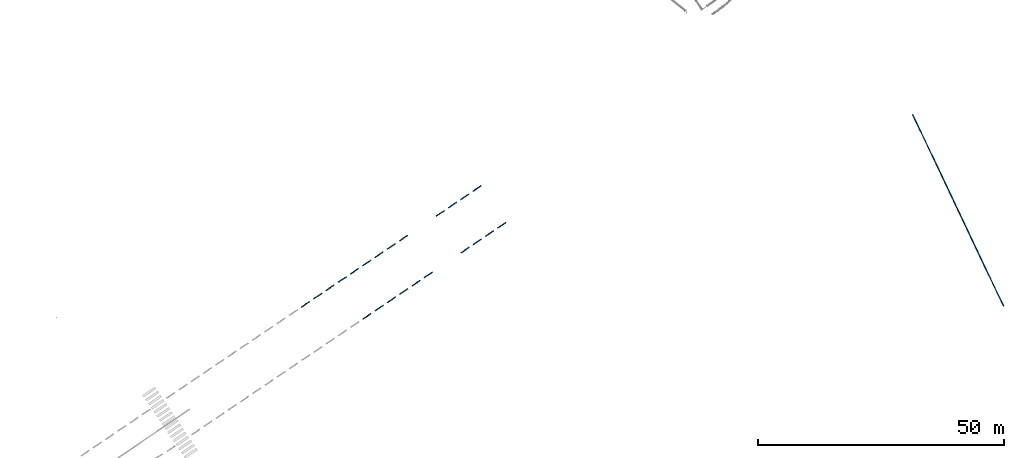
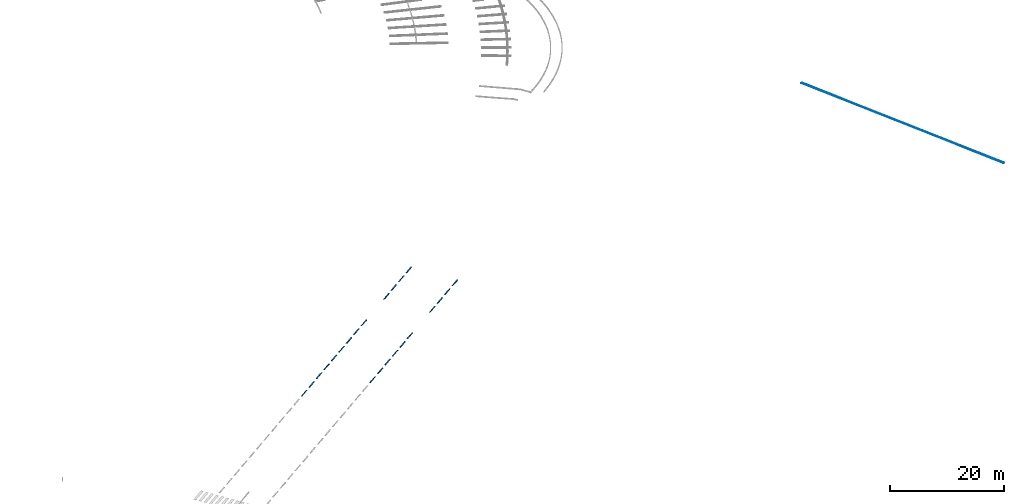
# One storey, part 89 of 157: 24 walls.
"""IFC2X3 building model written with IfcOpenShell, lengths in millimetres."""

from ifc_helpers import new_model, entity, si_unit, converted_unit, derived_unit, direction, frame, frame_2d, origin, origin_2d_with_axis, place, context, subcontext, project, spatial, rectangle, extrude, material, type_object, element, save


model = new_model("IFC2X3")

# Units and contexts
model_context = context("Model", 3, precision=0.01, world=origin(), true_north=direction((6.123031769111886e-17, 1.0)))
body_context = subcontext(model_context, "Body", "Model", "MODEL_VIEW")
ifc_project = project(units=[si_unit("LENGTHUNIT", "METRE", prefix="MILLI"), si_unit("AREAUNIT", "SQUARE_METRE"), si_unit("VOLUMEUNIT", "CUBIC_METRE"), converted_unit("PLANEANGLEUNIT", "DEGREE", entity("IfcRatioMeasure", 0.017453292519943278), si_unit("PLANEANGLEUNIT", "RADIAN"), dimensions=[0, 0, 0, 0, 0, 0, 0]), si_unit("MASSUNIT", "GRAM", prefix="KILO"), derived_unit("MASSDENSITYUNIT", [(si_unit("MASSUNIT", "GRAM", prefix="KILO"), 1), (si_unit("LENGTHUNIT", "METRE"), -3)]), derived_unit("MOMENTOFINERTIAUNIT", [(si_unit("LENGTHUNIT", "METRE"), 4)]), si_unit("TIMEUNIT", "SECOND"), si_unit("FREQUENCYUNIT", "HERTZ"), si_unit("THERMODYNAMICTEMPERATUREUNIT", "DEGREE_CELSIUS"), derived_unit("THERMALTRANSMITTANCEUNIT", [(si_unit("MASSUNIT", "GRAM", prefix="KILO"), 1), (si_unit("THERMODYNAMICTEMPERATUREUNIT", "KELVIN"), -1), (si_unit("TIMEUNIT", "SECOND"), -3)]), derived_unit("THERMALCONDUCTANCEUNIT", [(si_unit("MASSUNIT", "GRAM", prefix="KILO"), 1), (si_unit("LENGTHUNIT", "METRE"), 1), (si_unit("THERMODYNAMICTEMPERATUREUNIT", "KELVIN"), -1), (si_unit("TIMEUNIT", "SECOND"), -3)]), derived_unit("VOLUMETRICFLOWRATEUNIT", [(si_unit("LENGTHUNIT", "METRE"), 3), (si_unit("TIMEUNIT", "SECOND"), -1)]), derived_unit("MASSFLOWRATEUNIT", [(si_unit("MASSUNIT", "GRAM", prefix="KILO"), 1), (si_unit("TIMEUNIT", "SECOND"), -1)]), derived_unit("ROTATIONALFREQUENCYUNIT", [(si_unit("TIMEUNIT", "SECOND"), -1)]), si_unit("ELECTRICCURRENTUNIT", "AMPERE"), si_unit("ELECTRICVOLTAGEUNIT", "VOLT"), si_unit("POWERUNIT", "WATT"), converted_unit("FORCEUNIT", "KIP", entity("IfcRatioMeasure", 2.088543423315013e-05), si_unit("FORCEUNIT", "NEWTON"), dimensions=[1, 1, -2, 0, 0, 0, 0]), si_unit("ILLUMINANCEUNIT", "LUX"), si_unit("LUMINOUSFLUXUNIT", "LUMEN"), si_unit("LUMINOUSINTENSITYUNIT", "CANDELA"), derived_unit("USERDEFINED", [(si_unit("MASSUNIT", "GRAM", prefix="KILO"), -1), (si_unit("LENGTHUNIT", "METRE"), -2), (si_unit("TIMEUNIT", "SECOND"), 3), (si_unit("LUMINOUSFLUXUNIT", "LUMEN"), 1)]), derived_unit("USERDEFINED", [(si_unit("MASSUNIT", "GRAM", prefix="KILO"), 1), (si_unit("LENGTHUNIT", "METRE"), 3), (si_unit("TIMEUNIT", "SECOND"), -3), (si_unit("ELECTRICCURRENTUNIT", "AMPERE"), -2)]), derived_unit("USERDEFINED", [(si_unit("LENGTHUNIT", "METRE"), 2), (si_unit("TIMEUNIT", "SECOND"), -2)]), derived_unit("SOUNDPOWERUNIT", [(si_unit("MASSUNIT", "GRAM", prefix="KILO"), 1), (si_unit("LENGTHUNIT", "METRE"), 2), (si_unit("TIMEUNIT", "SECOND"), -3)]), derived_unit("SOUNDPRESSUREUNIT", [(si_unit("MASSUNIT", "GRAM", prefix="KILO"), 1), (si_unit("LENGTHUNIT", "METRE"), -1), (si_unit("TIMEUNIT", "SECOND"), -2)]), derived_unit("LINEARVELOCITYUNIT", [(si_unit("LENGTHUNIT", "METRE"), 1), (si_unit("TIMEUNIT", "SECOND"), -1)]), si_unit("PRESSUREUNIT", "PASCAL"), derived_unit("USERDEFINED", [(si_unit("LENGTHUNIT", "METRE"), -2), (si_unit("MASSUNIT", "GRAM", prefix="KILO"), 1), (si_unit("TIMEUNIT", "SECOND"), -2)]), derived_unit("LINEARFORCEUNIT", [(si_unit("MASSUNIT", "GRAM", prefix="KILO"), 1), (si_unit("LENGTHUNIT", "METRE"), 1), (si_unit("TIMEUNIT", "SECOND"), -2), (si_unit("LENGTHUNIT", "METRE"), -1)]), derived_unit("PLANARFORCEUNIT", [(si_unit("MASSUNIT", "GRAM", prefix="KILO"), 1), (si_unit("LENGTHUNIT", "METRE"), 1), (si_unit("TIMEUNIT", "SECOND"), -2), (si_unit("LENGTHUNIT", "METRE"), -2)]), derived_unit("SPECIFICHEATCAPACITYUNIT", [(si_unit("LENGTHUNIT", "METRE"), 2), (si_unit("TIMEUNIT", "SECOND"), -2), (si_unit("THERMODYNAMICTEMPERATUREUNIT", "KELVIN"), -1)]), derived_unit("VAPORPERMEABILITYUNIT", [(si_unit("TIMEUNIT", "SECOND"), 1), (si_unit("LENGTHUNIT", "METRE"), -1)]), derived_unit("DYNAMICVISCOSITYUNIT", [(si_unit("MASSUNIT", "GRAM", prefix="KILO"), 1), (si_unit("LENGTHUNIT", "METRE"), -1), (si_unit("TIMEUNIT", "SECOND"), -1)]), derived_unit("THERMALEXPANSIONCOEFFICIENTUNIT", [(si_unit("THERMODYNAMICTEMPERATUREUNIT", "KELVIN"), -1)])], contexts=[model_context])

# Site, building, storey
site_placement = place(None, frame((0.0, 0.0, 0.0), z_axis=(0.0, 0.0, 1.0), x_axis=(0.8191520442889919, 0.5735764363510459, 0.0)))
site = spatial("IfcSite", under=ifc_project, at=site_placement, Name="Default", CompositionType="ELEMENT")
building_placement = place(site_placement, origin())
building = spatial("IfcBuilding", under=site, at=building_placement, CompositionType="ELEMENT")
storey_placement = place(building_placement, origin())
storey = spatial("IfcBuildingStorey", under=building, at=storey_placement, Name="1.EG +0.00", CompositionType="ELEMENT", Elevation=-4.331468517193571e-12)

# Walls
ifc_material = material(Name="road_markirovka")
wall_type_1 = type_object("IfcWallType", Name="81", PredefinedType="NOTDEFINED", material=ifc_material)
wall_1_placement = place(storey_placement, frame((-95580.07877700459, -164540.9217570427, 350.0)))
element("IfcWall", 1, at=wall_1_placement, inside=storey, type_object=wall_type_1, material=ifc_material, Name="81 203477:81 203477", ObjectType="81 203477:81 203477", context=body_context, shape_type="SweptSolid", body=[
    extrude(rectangle(XDim=199.99999999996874, YDim=1999.9999999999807, at=frame_2d((1.730882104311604e-11, 2.2737367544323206e-13), x_axis=(1.0, 0.0))), frame((1001.5414149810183, 116.81643027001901, 0.0), z_axis=(0.0, 0.0, 1.0), x_axis=(0.0168305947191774, 0.9998583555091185, 0.0)), (0.0, 0.0, 1.0), 9.999999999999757),
])
wall_type_2 = type_object("IfcWallType", Name="81", PredefinedType="NOTDEFINED", material=ifc_material)
wall_2_placement = place(storey_placement, frame((-98579.65384353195, -164490.42997288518, 350.0)))
element("IfcWall", 2, at=wall_2_placement, inside=storey, type_object=wall_type_2, material=ifc_material, Name="81 203482:81 203482", ObjectType="81 203482:81 203482", context=body_context, shape_type="SweptSolid", body=[
    extrude(rectangle(XDim=199.99999999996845, YDim=2000.0000000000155, at=frame_2d((1.730882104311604e-11, 2.8421709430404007e-13), x_axis=(1.0, 0.0))), frame((1001.5414149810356, 116.81643027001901, 0.0), z_axis=(0.0, 0.0, 1.0), x_axis=(0.016830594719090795, 0.99985835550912, 0.0)), (0.0, 0.0, 1.0), 9.999999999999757),
])
wall_type_3 = type_object("IfcWallType", Name="81", PredefinedType="NOTDEFINED", material=ifc_material)
wall_3_placement = place(storey_placement, frame((-92580.50371047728, -164591.4135412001, 350.0)))
element("IfcWall", 3, at=wall_3_placement, inside=storey, type_object=wall_type_3, material=ifc_material, Name="81 203483:81 203483", ObjectType="81 203483:81 203483", context=body_context, shape_type="SweptSolid", body=[
    extrude(rectangle(XDim=200.0000000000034, YDim=1999.999999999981, at=frame_2d((1.4921397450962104e-13, -8.640199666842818e-12), x_axis=(1.0, 0.0))), frame((1001.5414149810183, 116.81643027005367, 0.0), z_axis=(0.0, 0.0, 1.0), x_axis=(0.016830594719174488, 0.9998583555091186, 0.0)), (0.0, 0.0, 1.0), 9.999999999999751),
])
wall_type_4 = type_object("IfcWallType", Name="81", PredefinedType="NOTDEFINED", material=ifc_material)
wall_4_placement = place(storey_placement, frame((-101579.2289100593, -164439.93818872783, 350.0)))
element("IfcWall", 4, at=wall_4_placement, inside=storey, type_object=wall_type_4, material=ifc_material, Name="81 203485:81 203485", ObjectType="81 203485:81 203485", context=body_context, shape_type="SweptSolid", body=[
    extrude(rectangle(XDim=200.00000000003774, YDim=1999.9999999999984, at=frame_2d((1.7472245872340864e-11, -8.29913915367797e-12), x_axis=(1.0, 0.0))), frame((1001.5414149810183, 116.81643027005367, 0.0), z_axis=(0.0, 0.0, 1.0), x_axis=(0.016830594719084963, 0.9998583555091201, 0.0)), (0.0, 0.0, 1.0), 9.999999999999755),
])
wall_type_5 = type_object("IfcWallType", Name="81", PredefinedType="NOTDEFINED", material=ifc_material)
wall_5_placement = place(storey_placement, frame((-104578.80397658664, -164389.44640457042, 350.0)))
element("IfcWall", 5, at=wall_5_placement, inside=storey, type_object=wall_type_5, material=ifc_material, Name="81 203491:81 203491", ObjectType="81 203491:81 203491", context=body_context, shape_type="SweptSolid", body=[
    extrude(rectangle(XDim=200.00000000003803, YDim=1999.999999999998, at=frame_2d((1.7330137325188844e-11, 2.2737367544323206e-13), x_axis=(1.0, 0.0))), frame((1001.5414149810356, 116.81643027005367, 0.0), z_axis=(0.0, 0.0, 1.0), x_axis=(0.01683059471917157, 0.9998583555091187, 0.0)), (0.0, 0.0, 1.0), 9.999999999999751),
])
wall_type_6 = type_object("IfcWallType", Name="81", PredefinedType="NOTDEFINED", material=ifc_material)
wall_6_placement = place(storey_placement, frame((-107578.37904311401, -164338.95462041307, 350.0)))
element("IfcWall", 6, at=wall_6_placement, inside=storey, type_object=wall_type_6, material=ifc_material, Name="81 203495:81 203495", ObjectType="81 203495:81 203495", context=body_context, shape_type="SweptSolid", body=[
    extrude(rectangle(XDim=200.0000000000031, YDim=1999.999999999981, at=origin_2d_with_axis()), frame((1001.5414149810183, 116.81643027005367, 0.0), z_axis=(0.0, 0.0, 1.0), x_axis=(0.01683059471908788, 0.9998583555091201, 0.0)), (0.0, 0.0, 1.0), 9.999999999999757),
])
wall_type_7 = type_object("IfcWallType", Name="81", PredefinedType="NOTDEFINED", material=ifc_material)
wall_7_placement = place(storey_placement, frame((-74583.0533113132, -164894.36424614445, 350.0)))
element("IfcWall", 7, at=wall_7_placement, inside=storey, type_object=wall_type_7, material=ifc_material, Name="81 203543:81 203543", ObjectType="81 203543:81 203543", context=body_context, shape_type="SweptSolid", body=[
    extrude(rectangle(XDim=199.99999999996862, YDim=1999.999999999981, at=frame_2d((7.105427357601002e-14, -4.376943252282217e-12), x_axis=(1.0, 0.0))), frame((1001.5414149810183, 116.81643027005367, 0.0), z_axis=(0.0, 0.0, 1.0), x_axis=(0.0168305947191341, 0.9998583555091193, 0.0)), (0.0, 0.0, 1.0), 9.999999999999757),
])
wall_type_8 = type_object("IfcWallType", Name="81", PredefinedType="NOTDEFINED", material=ifc_material)
wall_8_placement = place(storey_placement, frame((-74431.57795884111, -155895.63904656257, 350.0)))
element("IfcWall", 8, at=wall_8_placement, inside=storey, type_object=wall_type_8, material=ifc_material, Name="81 203552:81 203552", ObjectType="81 203552:81 203552", context=body_context, shape_type="SweptSolid", body=[
    extrude(rectangle(XDim=199.99999999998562, YDim=1999.9999999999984, at=frame_2d((-8.590461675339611e-12, -4.490630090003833e-12), x_axis=(1.0, 0.0))), frame((1001.5414149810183, 116.81643027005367, 0.0), z_axis=(0.0, 0.0, 1.0), x_axis=(0.016830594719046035, 0.9998583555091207, 0.0)), (0.0, 0.0, 1.0), 9.999999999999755),
])
wall_type_9 = type_object("IfcWallType", Name="81", PredefinedType="NOTDEFINED", material=ifc_material)
wall_9_placement = place(storey_placement, frame((-77431.15302536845, -155845.1472624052, 350.0)))
element("IfcWall", 9, at=wall_9_placement, inside=storey, type_object=wall_type_9, material=ifc_material, Name="81 203565:81 203565", ObjectType="81 203565:81 203565", context=body_context, shape_type="SweptSolid", body=[
    extrude(rectangle(XDim=200.00000000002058, YDim=1999.999999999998, at=frame_2d((8.57625082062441e-12, 4.433786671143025e-12), x_axis=(1.0, 0.0))), frame((1001.5414149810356, 116.81643027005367, 0.0), z_axis=(0.0, 0.0, 1.0), x_axis=(0.016830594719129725, 0.9998583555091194, 0.0)), (0.0, 0.0, 1.0), 9.999999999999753),
])
wall_type_10 = type_object("IfcWallType", Name="81", PredefinedType="NOTDEFINED", material=ifc_material)
wall_10_placement = place(storey_placement, frame((-80430.7280918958, -155794.65547824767, 350.0)))
element("IfcWall", 10, at=wall_10_placement, inside=storey, type_object=wall_type_10, material=ifc_material, Name="81 203566:81 203566", ObjectType="81 203566:81 203566", context=body_context, shape_type="SweptSolid", body=[
    extrude(rectangle(XDim=199.9999999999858, YDim=1999.9999999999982, at=frame_2d((-8.519407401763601e-12, -8.810729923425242e-12), x_axis=(1.0, 0.0))), frame((1001.5414149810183, 116.81643027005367, 0.0), z_axis=(0.0, 0.0, 1.0), x_axis=(0.01683059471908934, 0.9998583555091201, 0.0)), (0.0, 0.0, 1.0), 9.999999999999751),
])
wall_type_11 = type_object("IfcWallType", Name="81", PredefinedType="NOTDEFINED", material=ifc_material)
wall_11_placement = place(storey_placement, frame((-77582.62837784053, -164843.87246198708, 350.0)))
element("IfcWall", 11, at=wall_11_placement, inside=storey, type_object=wall_type_11, material=ifc_material, Name="81 203596:81 203596", ObjectType="81 203596:81 203596", context=body_context, shape_type="SweptSolid", body=[
    extrude(rectangle(XDim=200.0000000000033, YDim=1999.999999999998, at=frame_2d((-7.815970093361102e-14, 4.320099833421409e-12), x_axis=(1.0, 0.0))), frame((1001.5414149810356, 116.81643027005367, 0.0), z_axis=(0.0, 0.0, 1.0), x_axis=(0.016830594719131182, 0.9998583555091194, 0.0)), (0.0, 0.0, 1.0), 9.999999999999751),
])
wall_type_12 = type_object("IfcWallType", Name="81", PredefinedType="NOTDEFINED", material=ifc_material)
wall_12_placement = place(storey_placement, frame((-80582.2034443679, -164793.38067782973, 350.0)))
element("IfcWall", 12, at=wall_12_placement, inside=storey, type_object=wall_type_12, material=ifc_material, Name="81 203597:81 203597", ObjectType="81 203597:81 203597", context=body_context, shape_type="SweptSolid", body=[
    extrude(rectangle(XDim=200.0000000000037, YDim=1999.999999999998, at=origin_2d_with_axis()), frame((1001.5414149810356, 116.81643027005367, 0.0), z_axis=(0.0, 0.0, 1.0), x_axis=(0.01683059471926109, 0.9998583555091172, 0.0)), (0.0, 0.0, 1.0), 9.999999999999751),
])
wall_type_13 = type_object("IfcWallType", Name="81", PredefinedType="NOTDEFINED", material=ifc_material)
wall_13_placement = place(storey_placement, frame((-92429.02835800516, -155592.6883416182, 350.0)))
element("IfcWall", 13, at=wall_13_placement, inside=storey, type_object=wall_type_13, material=ifc_material, Name="81 203598:81 203598", ObjectType="81 203598:81 203598", context=body_context, shape_type="SweptSolid", body=[
    extrude(rectangle(XDim=199.99999999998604, YDim=1999.9999999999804, at=frame_2d((-8.64730509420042e-12, -1.1368683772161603e-13), x_axis=(1.0, 0.0))), frame((1001.5414149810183, 116.81643027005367, 0.0), z_axis=(0.0, 0.0, 1.0), x_axis=(0.016830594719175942, 0.9998583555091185, 0.0)), (0.0, 0.0, 1.0), 9.999999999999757),
])
wall_type_14 = type_object("IfcWallType", Name="81", PredefinedType="NOTDEFINED", material=ifc_material)
wall_14_placement = place(storey_placement, frame((-83430.30315842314, -155744.16369409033, 350.0)))
element("IfcWall", 14, at=wall_14_placement, inside=storey, type_object=wall_type_14, material=ifc_material, Name="81 203601:81 203601", ObjectType="81 203601:81 203601", context=body_context, shape_type="SweptSolid", body=[
    extrude(rectangle(XDim=200.000000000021, YDim=1999.999999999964, at=frame_2d((-8.810729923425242e-12, 8.526512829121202e-12), x_axis=(1.0, 0.0))), frame((1001.5414149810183, 116.81643027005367, 0.0), z_axis=(0.0, 0.0, 1.0), x_axis=(0.016830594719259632, 0.9998583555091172, 0.0)), (0.0, 0.0, 1.0), 9.999999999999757),
])
wall_type_15 = type_object("IfcWallType", Name="81", PredefinedType="NOTDEFINED", material=ifc_material)
wall_15_placement = place(storey_placement, frame((-98428.17849105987, -155491.7047733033, 350.0)))
element("IfcWall", 15, at=wall_15_placement, inside=storey, type_object=wall_type_15, material=ifc_material, Name="81 203604:81 203604", ObjectType="81 203604:81 203604", context=body_context, shape_type="SweptSolid", body=[
    extrude(rectangle(XDim=199.99999999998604, YDim=1999.9999999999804, at=frame_2d((-8.64730509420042e-12, -1.1368683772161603e-13), x_axis=(1.0, 0.0))), frame((1001.5414149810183, 116.81643027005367, 0.0), z_axis=(0.0, 0.0, 1.0), x_axis=(0.016830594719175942, 0.9998583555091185, 0.0)), (0.0, 0.0, 1.0), 9.999999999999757),
])
wall_type_16 = type_object("IfcWallType", Name="81", PredefinedType="NOTDEFINED", material=ifc_material)
wall_16_placement = place(storey_placement, frame((-95428.6034245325, -155542.1965574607, 350.0)))
element("IfcWall", 16, at=wall_16_placement, inside=storey, type_object=wall_type_16, material=ifc_material, Name="81 203605:81 203605", ObjectType="81 203605:81 203605", context=body_context, shape_type="SweptSolid", body=[
    extrude(rectangle(XDim=200.0000000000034, YDim=1999.9999999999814, at=frame_2d((-1.7330137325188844e-11, -3.410605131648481e-13), x_axis=(1.0, 0.0))), frame((1001.5414149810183, 116.816430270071, 0.0), z_axis=(0.0, 0.0, 1.0), x_axis=(0.016830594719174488, 0.9998583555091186, 0.0)), (0.0, 0.0, 1.0), 9.999999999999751),
])
wall_type_17 = type_object("IfcWallType", Name="81", PredefinedType="NOTDEFINED", material=ifc_material)
wall_17_placement = place(storey_placement, frame((-104427.32862411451, -155390.72120498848, 350.0)))
element("IfcWall", 17, at=wall_17_placement, inside=storey, type_object=wall_type_17, material=ifc_material, Name="81 203612:81 203612", ObjectType="81 203612:81 203612", context=body_context, shape_type="SweptSolid", body=[
    extrude(rectangle(XDim=199.99999999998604, YDim=1999.999999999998, at=frame_2d((-8.79651906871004e-12, 8.526512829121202e-12), x_axis=(1.0, 0.0))), frame((1001.5414149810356, 116.81643027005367, 0.0), z_axis=(0.0, 0.0, 1.0), x_axis=(0.016830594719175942, 0.9998583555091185, 0.0)), (0.0, 0.0, 1.0), 9.999999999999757),
])
wall_type_18 = type_object("IfcWallType", Name="81", PredefinedType="NOTDEFINED", material=ifc_material)
wall_18_placement = place(storey_placement, frame((-107426.9036906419, -155340.2294208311, 350.0)))
element("IfcWall", 18, at=wall_18_placement, inside=storey, type_object=wall_type_18, material=ifc_material, Name="81 203614:81 203614", ObjectType="81 203614:81 203614", context=body_context, shape_type="SweptSolid", body=[
    extrude(rectangle(XDim=200.0000000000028, YDim=1999.9999999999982, at=frame_2d((1.4921397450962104e-13, -8.640199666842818e-12), x_axis=(1.0, 0.0))), frame((1001.5414149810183, 116.81643027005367, 0.0), z_axis=(0.0, 0.0, 1.0), x_axis=(0.016830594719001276, 0.9998583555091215, 0.0)), (0.0, 0.0, 1.0), 9.999999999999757),
])
wall_type_19 = type_object("IfcWallType", Name="81", PredefinedType="NOTDEFINED", material=ifc_material)
wall_19_placement = place(storey_placement, frame((-113426.05382369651, -155239.24585251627, 350.0)))
element("IfcWall", 19, at=wall_19_placement, inside=storey, type_object=wall_type_19, material=ifc_material, Name="81 203616:81 203616", ObjectType="81 203616:81 203616", context=body_context, shape_type="SweptSolid", body=[
    extrude(rectangle(XDim=199.99999999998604, YDim=1999.99999999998, at=frame_2d((-8.5051965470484e-12, -8.810729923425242e-12), x_axis=(1.0, 0.0))), frame((1001.5414149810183, 116.81643027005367, 0.0), z_axis=(0.0, 0.0, 1.0), x_axis=(0.016830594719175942, 0.9998583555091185, 0.0)), (0.0, 0.0, 1.0), 9.999999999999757),
])
wall_type_20 = type_object("IfcWallType", Name="81", PredefinedType="NOTDEFINED", material=ifc_material)
wall_20_placement = place(storey_placement, frame((-101427.75355758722, -155441.21298914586, 350.0)))
element("IfcWall", 20, at=wall_20_placement, inside=storey, type_object=wall_type_20, material=ifc_material, Name="81 203617:81 203617", ObjectType="81 203617:81 203617", context=body_context, shape_type="SweptSolid", body=[
    extrude(rectangle(XDim=199.99999999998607, YDim=1999.9999999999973, at=frame_2d((8.64730509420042e-12, 1.1368683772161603e-13), x_axis=(1.0, 0.0))), frame((1001.5414149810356, 116.81643027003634, 0.0), z_axis=(0.0, 0.0, 1.0), x_axis=(0.016830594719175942, 0.9998583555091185, 0.0)), (0.0, 0.0, 1.0), 9.999999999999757),
])
wall_type_21 = type_object("IfcWallType", Name="81", PredefinedType="NOTDEFINED", material=ifc_material)
wall_21_placement = place(storey_placement, frame((-116425.6288902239, -155188.7540683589, 350.0)))
element("IfcWall", 21, at=wall_21_placement, inside=storey, type_object=wall_type_21, material=ifc_material, Name="81 203621:81 203621", ObjectType="81 203621:81 203621", context=body_context, shape_type="SweptSolid", body=[
    extrude(rectangle(XDim=199.9999999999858, YDim=1999.999999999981, at=frame_2d((-8.810729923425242e-12, 8.526512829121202e-12), x_axis=(1.0, 0.0))), frame((1001.5414149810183, 116.81643027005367, 0.0), z_axis=(0.0, 0.0, 1.0), x_axis=(0.01683059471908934, 0.9998583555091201, 0.0)), (0.0, 0.0, 1.0), 9.999999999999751),
])
wall_type_22 = type_object("IfcWallType", Name="81", PredefinedType="NOTDEFINED", material=ifc_material)
wall_22_placement = place(storey_placement, frame((-110426.4787571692, -155289.7376366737, 350.0)))
element("IfcWall", 22, at=wall_22_placement, inside=storey, type_object=wall_type_22, material=ifc_material, Name="81 203622:81 203622", ObjectType="81 203622:81 203622", context=body_context, shape_type="SweptSolid", body=[
    extrude(rectangle(XDim=199.9999999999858, YDim=1999.999999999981, at=frame_2d((8.661515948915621e-12, 1.1368683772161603e-13), x_axis=(1.0, 0.0))), frame((1001.5414149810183, 116.81643027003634, 0.0), z_axis=(0.0, 0.0, 1.0), x_axis=(0.01683059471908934, 0.9998583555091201, 0.0)), (0.0, 0.0, 1.0), 9.999999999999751),
])
wall_type_23 = type_object("IfcWallType", Name="81", PredefinedType="NOTDEFINED", material=ifc_material)
wall_23_placement = place(storey_placement, frame((-83581.77851089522, -164742.88889367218, 350.0)))
element("IfcWall", 23, at=wall_23_placement, inside=storey, type_object=wall_type_23, material=ifc_material, Name="81 203643:81 203643", ObjectType="81 203643:81 203643", context=body_context, shape_type="SweptSolid", body=[
    extrude(rectangle(XDim=199.99999999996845, YDim=1999.999999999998, at=frame_2d((1.745803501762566e-11, -8.412825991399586e-12), x_axis=(1.0, 0.0))), frame((1001.5414149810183, 116.81643027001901, 0.0), z_axis=(0.0, 0.0, 1.0), x_axis=(0.016830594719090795, 0.99985835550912, 0.0)), (0.0, 0.0, 1.0), 9.999999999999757),
])
wall_type_24 = type_object("IfcWallType", Name="81", PredefinedType="NOTDEFINED", material=ifc_material)
wall_24_placement = place(storey_placement, frame((358.39669312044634, -236677.24360132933, 350.0), z_axis=(0.0, 0.0, 1.0), x_axis=(0.0, 1.0, 0.0)))
element("IfcWall", 24, at=wall_24_placement, inside=storey, type_object=wall_type_24, material=ifc_material, Name="81 203676:81 203676", ObjectType="81 203676:81 203676", context=body_context, shape_type="SweptSolid", body=[
    extrude(rectangle(XDim=200.00000000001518, YDim=43105.37693060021, at=frame_2d((-6.764366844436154e-12, 3.456079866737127e-11), x_axis=(1.0, 0.0))), frame((21266.06366634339, -3701.884262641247, 0.0), z_axis=(0.0, 0.0, 1.0), x_axis=(-0.16718525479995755, -0.9859254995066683, 0.0)), (0.0, 0.0, 1.0), 9.999999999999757),
])

save(model, "model.ifc")
